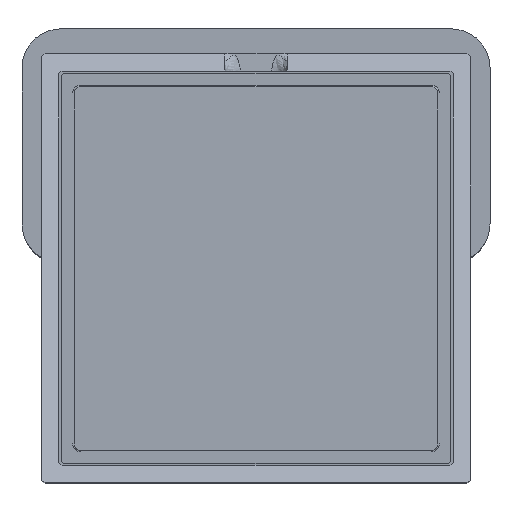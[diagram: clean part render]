
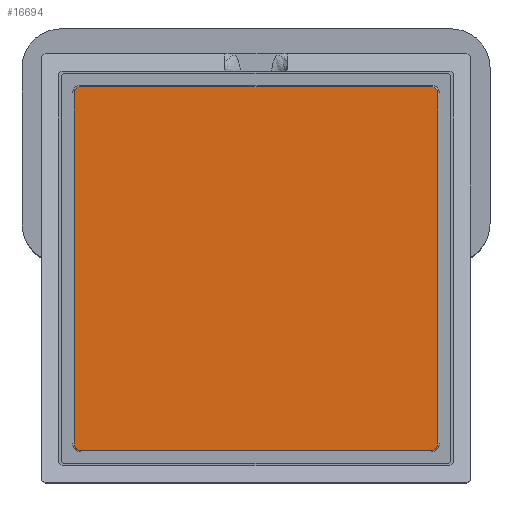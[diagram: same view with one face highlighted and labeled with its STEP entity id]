
A CAD part, top view. The second image highlights one B-rep face of the part: STEP entity #16694.
In plain terms, the highlighted planar face has unit normal (0, 0, 1).
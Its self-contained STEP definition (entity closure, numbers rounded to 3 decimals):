
#16547=CARTESIAN_POINT('',(22.5,-22.5,72.991));
#16548=DIRECTION('',(0.,0.,1.));
#16549=DIRECTION('',(0.,-1.,0.));
#16550=AXIS2_PLACEMENT_3D('',#16547,#16548,#16549);
#16552=DIRECTION('',(-1.,0.,0.));
#16553=VECTOR('',#16552,45.);
#16554=CARTESIAN_POINT('',(22.5,-23.3,72.991));
#16555=LINE('',#16554,#16553);
#16556=CARTESIAN_POINT('',(-22.5,-22.5,72.991));
#16557=DIRECTION('',(0.,0.,1.));
#16558=DIRECTION('',(-1.,0.,0.));
#16559=AXIS2_PLACEMENT_3D('',#16556,#16557,#16558);
#16561=DIRECTION('',(0.,1.,0.));
#16562=VECTOR('',#16561,45.);
#16563=CARTESIAN_POINT('',(-23.3,-22.5,72.991));
#16564=LINE('',#16563,#16562);
#16565=CARTESIAN_POINT('',(-22.5,22.5,72.991));
#16566=DIRECTION('',(0.,0.,1.));
#16567=DIRECTION('',(0.,1.,0.));
#16568=AXIS2_PLACEMENT_3D('',#16565,#16566,#16567);
#16570=DIRECTION('',(-1.,0.,0.));
#16571=VECTOR('',#16570,45.);
#16572=CARTESIAN_POINT('',(22.5,23.3,72.991));
#16573=LINE('',#16572,#16571);
#16574=CARTESIAN_POINT('',(22.5,22.5,72.991));
#16575=DIRECTION('',(0.,0.,1.));
#16576=DIRECTION('',(1.,0.,0.));
#16577=AXIS2_PLACEMENT_3D('',#16574,#16575,#16576);
#16579=DIRECTION('',(0.,-1.,0.));
#16580=VECTOR('',#16579,45.);
#16581=CARTESIAN_POINT('',(23.3,22.5,72.991));
#16582=LINE('',#16581,#16580);
#16639=CARTESIAN_POINT('',(22.5,-23.3,72.991));
#16640=CARTESIAN_POINT('',(23.3,-22.5,72.991));
#16641=VERTEX_POINT('',#16639);
#16642=VERTEX_POINT('',#16640);
#16647=CARTESIAN_POINT('',(23.3,22.5,72.991));
#16648=VERTEX_POINT('',#16647);
#16649=CARTESIAN_POINT('',(22.5,23.3,72.991));
#16650=VERTEX_POINT('',#16649);
#16655=CARTESIAN_POINT('',(-22.5,23.3,72.991));
#16656=VERTEX_POINT('',#16655);
#16659=CARTESIAN_POINT('',(-23.3,22.5,72.991));
#16660=VERTEX_POINT('',#16659);
#16663=CARTESIAN_POINT('',(-23.3,-22.5,72.991));
#16664=VERTEX_POINT('',#16663);
#16665=CARTESIAN_POINT('',(-22.5,-23.3,72.991));
#16666=VERTEX_POINT('',#16665);
#16671=CARTESIAN_POINT('',(0.,0.,72.991));
#16672=DIRECTION('',(0.,0.,1.));
#16673=DIRECTION('',(1.,0.,0.));
#16674=AXIS2_PLACEMENT_3D('',#16671,#16672,#16673);
#16675=PLANE('',#16674);
#16677=ORIENTED_EDGE('',*,*,#16676,.F.);
#16679=ORIENTED_EDGE('',*,*,#16678,.T.);
#16681=ORIENTED_EDGE('',*,*,#16680,.F.);
#16683=ORIENTED_EDGE('',*,*,#16682,.T.);
#16685=ORIENTED_EDGE('',*,*,#16684,.F.);
#16687=ORIENTED_EDGE('',*,*,#16686,.F.);
#16689=ORIENTED_EDGE('',*,*,#16688,.F.);
#16691=ORIENTED_EDGE('',*,*,#16690,.T.);
#16692=EDGE_LOOP('',(#16677,#16679,#16681,#16683,#16685,#16687,#16689,#16691));
#16693=FACE_OUTER_BOUND('',#16692,.F.);
#16694=ADVANCED_FACE('',(#16693),#16675,.T.);
#16551=CIRCLE('',#16550,0.8);
#16560=CIRCLE('',#16559,0.8);
#16569=CIRCLE('',#16568,0.8);
#16578=CIRCLE('',#16577,0.8);
#16676=EDGE_CURVE('',#16641,#16642,#16551,.T.);
#16678=EDGE_CURVE('',#16641,#16666,#16555,.T.);
#16680=EDGE_CURVE('',#16664,#16666,#16560,.T.);
#16682=EDGE_CURVE('',#16664,#16660,#16564,.T.);
#16684=EDGE_CURVE('',#16656,#16660,#16569,.T.);
#16686=EDGE_CURVE('',#16650,#16656,#16573,.T.);
#16688=EDGE_CURVE('',#16648,#16650,#16578,.T.);
#16690=EDGE_CURVE('',#16648,#16642,#16582,.T.);
